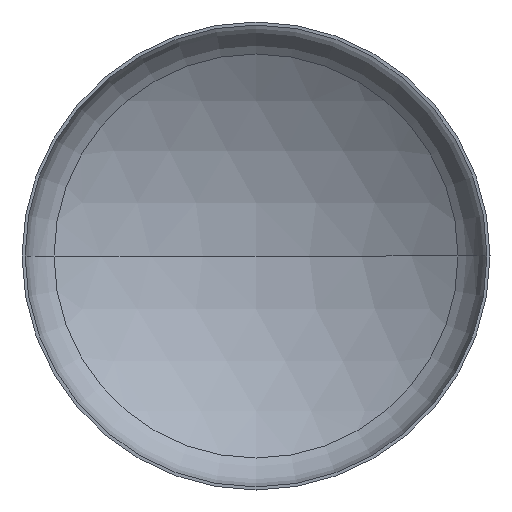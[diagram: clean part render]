
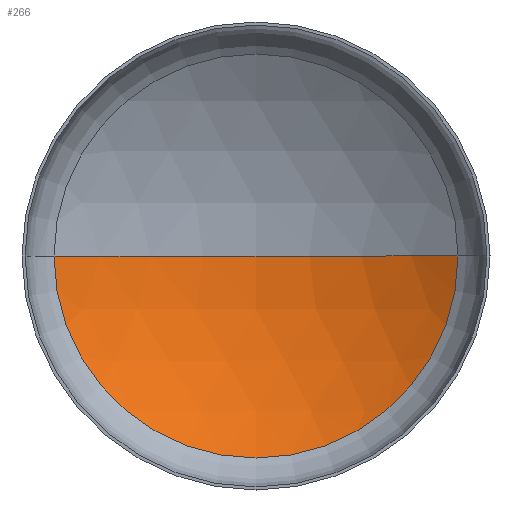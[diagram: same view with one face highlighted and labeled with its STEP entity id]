
A CAD part, front view. The second image highlights one B-rep face of the part: STEP entity #266.
In plain terms, the highlighted spherical face has radius 478.4 mm.
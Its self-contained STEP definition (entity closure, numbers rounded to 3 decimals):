
#31 = CARTESIAN_POINT ( 'NONE',  ( 0., -330.4, 0. ) ) ;
#36 = ORIENTED_EDGE ( 'NONE', *, *, #391, .F. ) ;
#49 = CARTESIAN_POINT ( 'NONE',  ( 0., 69.588, 0. ) ) ;
#56 = AXIS2_PLACEMENT_3D ( 'NONE', #49, #194, #166 ) ;
#59 = DIRECTION ( 'NONE',  ( 0., 0., 1. ) ) ;
#62 = DIRECTION ( 'NONE',  ( 0., 0., 1. ) ) ;
#63 = EDGE_CURVE ( 'NONE', #286, #168, #212, .T. ) ;
#76 = CARTESIAN_POINT ( 'NONE',  ( 0., 148., 0. ) ) ;
#99 = CIRCLE ( 'NONE', #322, 478.4 ) ;
#110 = AXIS2_PLACEMENT_3D ( 'NONE', #346, #59, #376 ) ;
#117 = FACE_OUTER_BOUND ( 'NONE', #356, .T. ) ;
#128 = DIRECTION ( 'NONE',  ( 1., 0., 0. ) ) ;
#147 = VERTEX_POINT ( 'NONE', #290 ) ;
#148 = EDGE_CURVE ( 'NONE', #286, #147, #302, .T. ) ;
#166 = DIRECTION ( 'NONE',  ( -1., 0., 0. ) ) ;
#168 = VERTEX_POINT ( 'NONE', #76 ) ;
#194 = DIRECTION ( 'NONE',  ( 0., 1., 0. ) ) ;
#207 = ORIENTED_EDGE ( 'NONE', *, *, #63, .T. ) ;
#212 = CIRCLE ( 'NONE', #341, 478.4 ) ;
#239 = SPHERICAL_SURFACE ( 'NONE', #110, 478.4 ) ;
#266 = ADVANCED_FACE ( 'NONE', ( #117 ), #239, .F. ) ;
#286 = VERTEX_POINT ( 'NONE', #300 ) ;
#290 = CARTESIAN_POINT ( 'NONE',  ( -262.442, 69.588, 0. ) ) ;
#295 = CARTESIAN_POINT ( 'NONE',  ( 0., -330.4, 0. ) ) ;
#298 = DIRECTION ( 'NONE',  ( 0., 0., -1. ) ) ;
#300 = CARTESIAN_POINT ( 'NONE',  ( 262.442, 69.588, 0. ) ) ;
#302 = CIRCLE ( 'NONE', #56, 262.442 ) ;
#322 = AXIS2_PLACEMENT_3D ( 'NONE', #295, #298, #334 ) ;
#334 = DIRECTION ( 'NONE',  ( -1., 0., 0. ) ) ;
#341 = AXIS2_PLACEMENT_3D ( 'NONE', #31, #62, #128 ) ;
#344 = ORIENTED_EDGE ( 'NONE', *, *, #148, .F. ) ;
#346 = CARTESIAN_POINT ( 'NONE',  ( 0., -330.4, 0. ) ) ;
#356 = EDGE_LOOP ( 'NONE', ( #344, #207, #36 ) ) ;
#376 = DIRECTION ( 'NONE',  ( -1., 0., 0. ) ) ;
#391 = EDGE_CURVE ( 'NONE', #147, #168, #99, .T. ) ;
